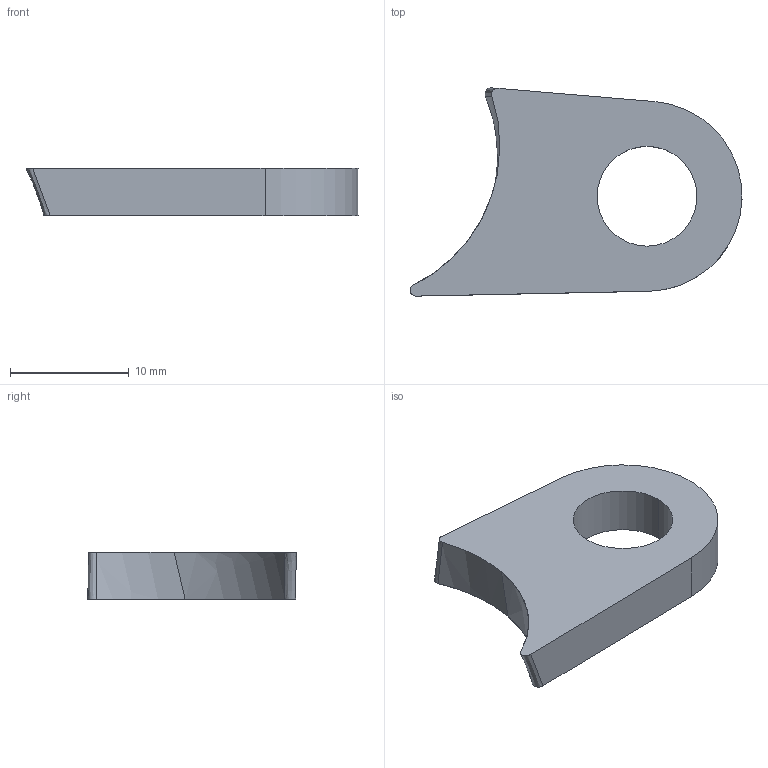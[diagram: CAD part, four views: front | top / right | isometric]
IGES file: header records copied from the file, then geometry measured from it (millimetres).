
Start section: START RECORD GO HERE.
Global section: file name: 20M_SU_05003R (chape susp avant R).igs; native system: IBM CATIA IGES - CATIA Version 5 Release 19 ; preprocessor: CATIA Version 5 Release 19 ; author: Martin Kawczynski; organization: DESKTOP-UDLM1FC; date: 20191224.160205; units: millimetre
Bounding box: 27.95 x 17.54 x 4 mm (x, y, z)
Surface area: 979.2 mm2 (no closed solid volume)
Topology: 0 solids, 0 shells, 11 faces, 54 edges, 57 vertices
Faces by surface type: revolution 5, plane 4, bspline 2
